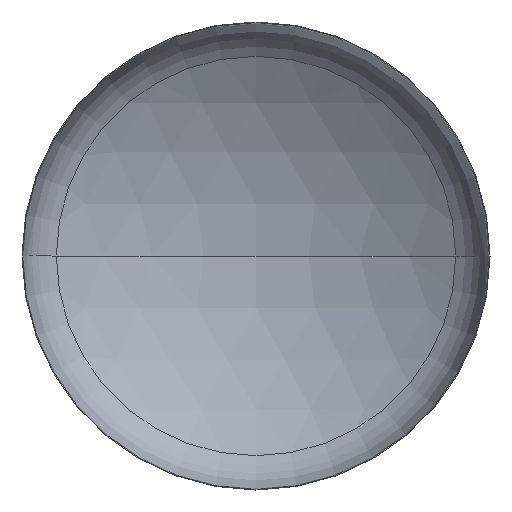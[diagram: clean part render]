
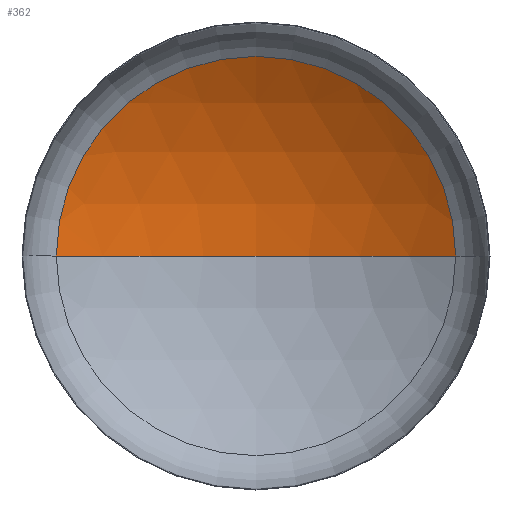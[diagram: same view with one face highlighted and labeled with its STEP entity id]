
A CAD part, front view. The second image highlights one B-rep face of the part: STEP entity #362.
In plain terms, the highlighted spherical face has radius 3600 mm.
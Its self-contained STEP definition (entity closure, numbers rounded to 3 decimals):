
#15 = CIRCLE ( 'NONE', #33, 3600. ) ;
#21 = DIRECTION ( 'NONE',  ( -1., 0., 0. ) ) ;
#22 = EDGE_LOOP ( 'NONE', ( #59, #45, #390 ) ) ;
#27 = AXIS2_PLACEMENT_3D ( 'NONE', #311, #170, #29 ) ;
#29 = DIRECTION ( 'NONE',  ( 1., 0., 0. ) ) ;
#32 = CARTESIAN_POINT ( 'NONE',  ( 0., 1162.435, 0. ) ) ;
#33 = AXIS2_PLACEMENT_3D ( 'NONE', #169, #360, #21 ) ;
#36 = AXIS2_PLACEMENT_3D ( 'NONE', #213, #198, #365 ) ;
#45 = ORIENTED_EDGE ( 'NONE', *, *, #83, .T. ) ;
#59 = ORIENTED_EDGE ( 'NONE', *, *, #84, .F. ) ;
#76 = VERTEX_POINT ( 'NONE', #336 ) ;
#82 = EDGE_CURVE ( 'NONE', #76, #124, #254, .T. ) ;
#83 = EDGE_CURVE ( 'NONE', #278, #76, #15, .T. ) ;
#84 = EDGE_CURVE ( 'NONE', #278, #124, #369, .T. ) ;
#104 = SPHERICAL_SURFACE ( 'NONE', #334, 3600. ) ;
#108 = DIRECTION ( 'NONE',  ( -1., 0., 0. ) ) ;
#124 = VERTEX_POINT ( 'NONE', #289 ) ;
#130 = FACE_OUTER_BOUND ( 'NONE', #22, .T. ) ;
#169 = CARTESIAN_POINT ( 'NONE',  ( 0., -2437.565, 0. ) ) ;
#170 = DIRECTION ( 'NONE',  ( 0., 0., 1. ) ) ;
#183 = DIRECTION ( 'NONE',  ( 0., 0., -1. ) ) ;
#198 = DIRECTION ( 'NONE',  ( 0., -1., 0. ) ) ;
#213 = CARTESIAN_POINT ( 'NONE',  ( 0., 607.954, 0. ) ) ;
#254 = CIRCLE ( 'NONE', #36, 1919.587 ) ;
#271 = CARTESIAN_POINT ( 'NONE',  ( 0., -2437.565, 0. ) ) ;
#278 = VERTEX_POINT ( 'NONE', #32 ) ;
#289 = CARTESIAN_POINT ( 'NONE',  ( -1919.587, 607.954, 0. ) ) ;
#311 = CARTESIAN_POINT ( 'NONE',  ( 0., -2437.565, 0. ) ) ;
#334 = AXIS2_PLACEMENT_3D ( 'NONE', #271, #183, #108 ) ;
#336 = CARTESIAN_POINT ( 'NONE',  ( 1919.587, 607.954, 0. ) ) ;
#360 = DIRECTION ( 'NONE',  ( 0., 0., -1. ) ) ;
#362 = ADVANCED_FACE ( 'NONE', ( #130 ), #104, .F. ) ;
#365 = DIRECTION ( 'NONE',  ( 1., 0., 0. ) ) ;
#369 = CIRCLE ( 'NONE', #27, 3600. ) ;
#390 = ORIENTED_EDGE ( 'NONE', *, *, #82, .T. ) ;
